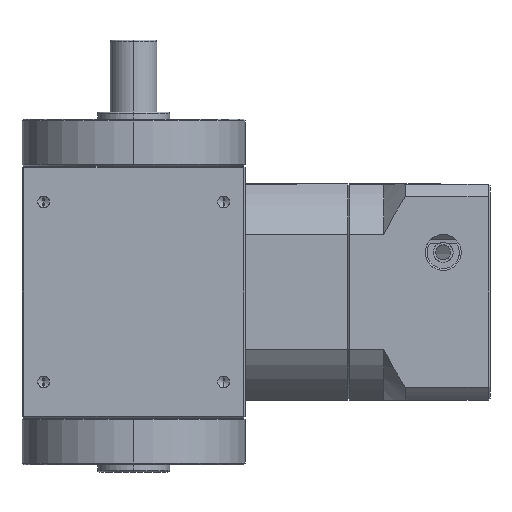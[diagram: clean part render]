
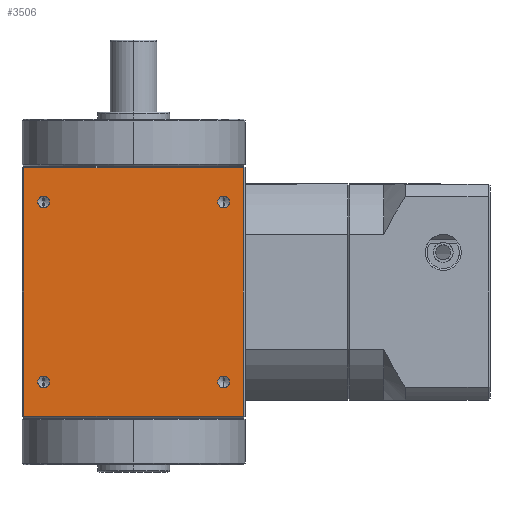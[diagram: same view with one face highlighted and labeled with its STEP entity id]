
A CAD part, left-side view. The second image highlights one B-rep face of the part: STEP entity #3506.
In plain terms, the highlighted planar face has unit normal (-1, 0, 0).
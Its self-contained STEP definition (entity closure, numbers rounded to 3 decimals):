
#271 = DIRECTION ( 'NONE',  ( 0., 0., 1. ) ) ;
#294 = CARTESIAN_POINT ( 'NONE',  ( -31., 25., 25. ) ) ;
#301 = DIRECTION ( 'NONE',  ( -1., 0., 0. ) ) ;
#409 = ORIENTED_EDGE ( 'NONE', *, *, #8632, .F. ) ;
#415 = ORIENTED_EDGE ( 'NONE', *, *, #4972, .F. ) ;
#426 = ORIENTED_EDGE ( 'NONE', *, *, #8633, .F. ) ;
#429 = ORIENTED_EDGE ( 'NONE', *, *, #8636, .T. ) ;
#433 = ORIENTED_EDGE ( 'NONE', *, *, #4964, .F. ) ;
#443 = ORIENTED_EDGE ( 'NONE', *, *, #8641, .T. ) ;
#450 = ORIENTED_EDGE ( 'NONE', *, *, #4976, .F. ) ;
#455 = ORIENTED_EDGE ( 'NONE', *, *, #8640, .T. ) ;
#465 = ORIENTED_EDGE ( 'NONE', *, *, #8627, .F. ) ;
#497 = ORIENTED_EDGE ( 'NONE', *, *, #8639, .T. ) ;
#502 = ORIENTED_EDGE ( 'NONE', *, *, #7371, .F. ) ;
#701 = ORIENTED_EDGE ( 'NONE', *, *, #8634, .F. ) ;
#747 = EDGE_LOOP ( 'NONE', ( #429, #497, #455, #443 ) ) ;
#807 = EDGE_LOOP ( 'NONE', ( #701, #450 ) ) ;
#848 = EDGE_LOOP ( 'NONE', ( #426, #433 ) ) ;
#862 = EDGE_LOOP ( 'NONE', ( #409, #415 ) ) ;
#1437 = FACE_BOUND ( 'NONE', #807, .T. ) ;
#1440 = FACE_BOUND ( 'NONE', #1608, .T. ) ;
#1441 = FACE_BOUND ( 'NONE', #862, .T. ) ;
#1444 = FACE_BOUND ( 'NONE', #848, .T. ) ;
#1446 = FACE_OUTER_BOUND ( 'NONE', #747, .T. ) ;
#1608 = EDGE_LOOP ( 'NONE', ( #465, #502 ) ) ;
#2540 = VERTEX_POINT ( 'NONE', #8507 ) ;
#2573 = VERTEX_POINT ( 'NONE', #8473 ) ;
#2574 = VERTEX_POINT ( 'NONE', #8472 ) ;
#2587 = VERTEX_POINT ( 'NONE', #8451 ) ;
#2592 = VERTEX_POINT ( 'NONE', #8528 ) ;
#2616 = VERTEX_POINT ( 'NONE', #8433 ) ;
#2680 = VERTEX_POINT ( 'NONE', #6579 ) ;
#2684 = VERTEX_POINT ( 'NONE', #6559 ) ;
#2685 = VERTEX_POINT ( 'NONE', #6554 ) ;
#2700 = VERTEX_POINT ( 'NONE', #6496 ) ;
#2735 = VERTEX_POINT ( 'NONE', #6369 ) ;
#2760 = VERTEX_POINT ( 'NONE', #6801 ) ;
#3040 = CARTESIAN_POINT ( 'NONE',  ( -31., 25., -25. ) ) ;
#3041 = DIRECTION ( 'NONE',  ( -1., 0., 0. ) ) ;
#3042 = DIRECTION ( 'NONE',  ( 0., 0., 1. ) ) ;
#3211 = CARTESIAN_POINT ( 'NONE',  ( -31., 25., -25. ) ) ;
#3212 = DIRECTION ( 'NONE',  ( -1., 0., 0. ) ) ;
#3213 = DIRECTION ( 'NONE',  ( 0., 0., 1. ) ) ;
#3223 = CARTESIAN_POINT ( 'NONE',  ( -31., -25., 25. ) ) ;
#3224 = DIRECTION ( 'NONE',  ( -1., 0., 0. ) ) ;
#3225 = DIRECTION ( 'NONE',  ( 0., 0., 1. ) ) ;
#3228 = CARTESIAN_POINT ( 'NONE',  ( -31., 25., 25. ) ) ;
#3229 = DIRECTION ( 'NONE',  ( -1., 0., 0. ) ) ;
#3230 = DIRECTION ( 'NONE',  ( 0., 0., 1. ) ) ;
#3231 = CARTESIAN_POINT ( 'NONE',  ( -31., -31., -34.5 ) ) ;
#3232 = CARTESIAN_POINT ( 'NONE',  ( -31., -25., -25. ) ) ;
#3233 = DIRECTION ( 'NONE',  ( -1., 0., 0. ) ) ;
#3234 = DIRECTION ( 'NONE',  ( 0., 0., 1. ) ) ;
#3235 = DIRECTION ( 'NONE',  ( 0., -1., 0. ) ) ;
#3236 = CARTESIAN_POINT ( 'NONE',  ( -31., -30.5, 35. ) ) ;
#3237 = DIRECTION ( 'NONE',  ( 0., 0., 1. ) ) ;
#3245 = CARTESIAN_POINT ( 'NONE',  ( -31., 31., 34.5 ) ) ;
#3246 = DIRECTION ( 'NONE',  ( 0., 1., 0. ) ) ;
#3247 = CARTESIAN_POINT ( 'NONE',  ( -31., 30.5, 35. ) ) ;
#3248 = DIRECTION ( 'NONE',  ( 0., 0., -1. ) ) ;
#3506 = ADVANCED_FACE ( 'NONE', ( #1440, #1444, #1441, #1437, #1446 ), #8245, .F. ) ;
#4419 = CIRCLE ( 'NONE', #5193, 1.65 ) ;
#4430 = CIRCLE ( 'NONE', #5188, 1.65 ) ;
#4436 = CIRCLE ( 'NONE', #5185, 1.65 ) ;
#4796 = DIRECTION ( 'NONE',  ( 0., 0., 1. ) ) ;
#4797 = DIRECTION ( 'NONE',  ( -1., 0., 0. ) ) ;
#4798 = CARTESIAN_POINT ( 'NONE',  ( -31., -25., -25. ) ) ;
#4813 = DIRECTION ( 'NONE',  ( 0., 0., 1. ) ) ;
#4815 = DIRECTION ( 'NONE',  ( -1., 0., 0. ) ) ;
#4816 = CARTESIAN_POINT ( 'NONE',  ( -31., -25., 25. ) ) ;
#4964 = EDGE_CURVE ( 'NONE', #2574, #2573, #4419, .T. ) ;
#4972 = EDGE_CURVE ( 'NONE', #2685, #2540, #4430, .T. ) ;
#4976 = EDGE_CURVE ( 'NONE', #2735, #2592, #4436, .T. ) ;
#5185 = AXIS2_PLACEMENT_3D ( 'NONE', #4798, #4797, #4796 ) ;
#5188 = AXIS2_PLACEMENT_3D ( 'NONE', #4816, #4815, #4813 ) ;
#5193 = AXIS2_PLACEMENT_3D ( 'NONE', #294, #301, #271 ) ;
#5244 = AXIS2_PLACEMENT_3D ( 'NONE', #8244, #8215, #8247 ) ;
#5501 = CIRCLE ( 'NONE', #5824, 1.65 ) ;
#5562 = CIRCLE ( 'NONE', #5799, 1.65 ) ;
#5564 = LINE ( 'NONE', #3231, #5575 ) ;
#5568 = CIRCLE ( 'NONE', #5795, 1.65 ) ;
#5569 = CIRCLE ( 'NONE', #5796, 1.65 ) ;
#5570 = CIRCLE ( 'NONE', #5812, 1.65 ) ;
#5575 = VECTOR ( 'NONE', #3235, 1000. ) ;
#5577 = LINE ( 'NONE', #3236, #5579 ) ;
#5578 = LINE ( 'NONE', #3245, #5581 ) ;
#5579 = VECTOR ( 'NONE', #3237, 1000. ) ;
#5580 = LINE ( 'NONE', #3247, #5583 ) ;
#5581 = VECTOR ( 'NONE', #3246, 1000. ) ;
#5583 = VECTOR ( 'NONE', #3248, 1000. ) ;
#5795 = AXIS2_PLACEMENT_3D ( 'NONE', #3223, #3224, #3225 ) ;
#5796 = AXIS2_PLACEMENT_3D ( 'NONE', #3228, #3229, #3230 ) ;
#5799 = AXIS2_PLACEMENT_3D ( 'NONE', #3211, #3212, #3213 ) ;
#5812 = AXIS2_PLACEMENT_3D ( 'NONE', #3232, #3233, #3234 ) ;
#5824 = AXIS2_PLACEMENT_3D ( 'NONE', #3040, #3041, #3042 ) ;
#6369 = CARTESIAN_POINT ( 'NONE',  ( -31., -25., -26.65 ) ) ;
#6496 = CARTESIAN_POINT ( 'NONE',  ( -31., 30.5, -34.5 ) ) ;
#6554 = CARTESIAN_POINT ( 'NONE',  ( -31., -25., 23.35 ) ) ;
#6559 = CARTESIAN_POINT ( 'NONE',  ( -31., 30.5, 34.5 ) ) ;
#6579 = CARTESIAN_POINT ( 'NONE',  ( -31., -30.5, 34.5 ) ) ;
#6801 = CARTESIAN_POINT ( 'NONE',  ( -31., -30.5, -34.5 ) ) ;
#7371 = EDGE_CURVE ( 'NONE', #2587, #2616, #5501, .T. ) ;
#8215 = DIRECTION ( 'NONE',  ( 1., 0., 0. ) ) ;
#8244 = CARTESIAN_POINT ( 'NONE',  ( -31., -31., 35. ) ) ;
#8245 = PLANE ( 'NONE',  #5244 ) ;
#8247 = DIRECTION ( 'NONE',  ( 0., 0., -1. ) ) ;
#8433 = CARTESIAN_POINT ( 'NONE',  ( -31., 25., -23.35 ) ) ;
#8451 = CARTESIAN_POINT ( 'NONE',  ( -31., 25., -26.65 ) ) ;
#8472 = CARTESIAN_POINT ( 'NONE',  ( -31., 25., 23.35 ) ) ;
#8473 = CARTESIAN_POINT ( 'NONE',  ( -31., 25., 26.65 ) ) ;
#8507 = CARTESIAN_POINT ( 'NONE',  ( -31., -25., 26.65 ) ) ;
#8528 = CARTESIAN_POINT ( 'NONE',  ( -31., -25., -23.35 ) ) ;
#8627 = EDGE_CURVE ( 'NONE', #2616, #2587, #5562, .T. ) ;
#8632 = EDGE_CURVE ( 'NONE', #2540, #2685, #5568, .T. ) ;
#8633 = EDGE_CURVE ( 'NONE', #2573, #2574, #5569, .T. ) ;
#8634 = EDGE_CURVE ( 'NONE', #2592, #2735, #5570, .T. ) ;
#8636 = EDGE_CURVE ( 'NONE', #2700, #2760, #5564, .T. ) ;
#8639 = EDGE_CURVE ( 'NONE', #2760, #2680, #5577, .T. ) ;
#8640 = EDGE_CURVE ( 'NONE', #2680, #2684, #5578, .T. ) ;
#8641 = EDGE_CURVE ( 'NONE', #2684, #2700, #5580, .T. ) ;
